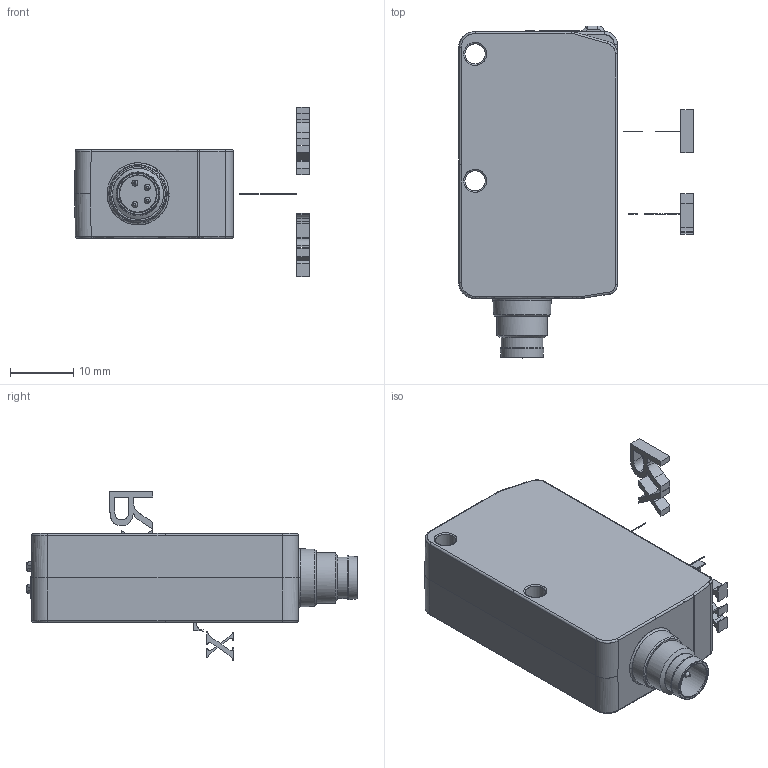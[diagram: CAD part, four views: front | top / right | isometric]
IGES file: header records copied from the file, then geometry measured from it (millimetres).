
Start section: JAMA-IS VERSION  1.0
Global section: file name: D:\CS\IDF\TESTPCB\DSD-0141.igs; native system: NX V12.0; preprocessor: SIEMENS PLM Software NX 12.0; date: 200922.091216; units: millimetre
Bounding box: 37 x 52.3 x 26.68 mm (x, y, z)
Surface area: 5125.3 mm2 (no closed solid volume)
Topology: 0 solids, 0 shells, 466 faces, 2877 edges, 2796 vertices
Faces by surface type: bspline 466
